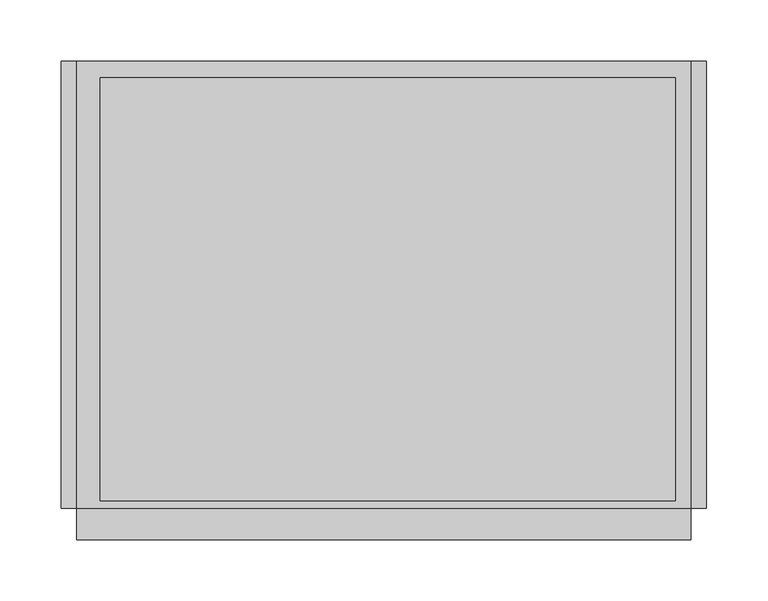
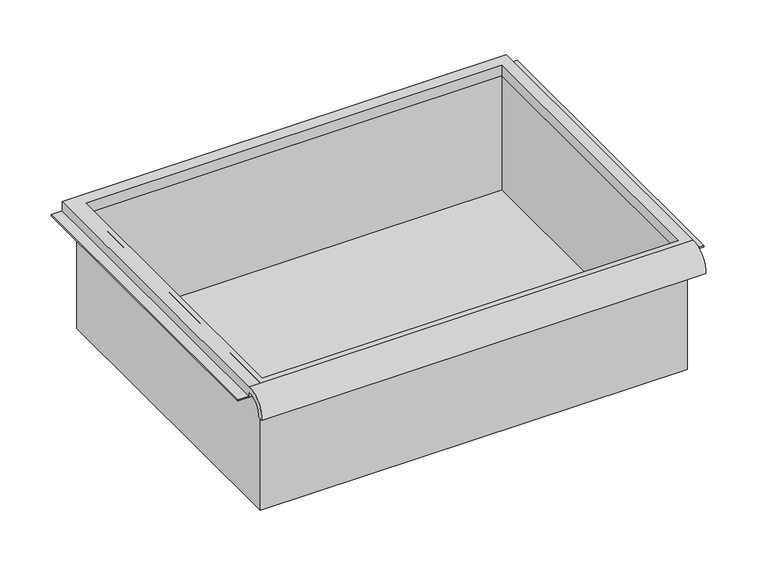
"""IFC4 building model written with IfcOpenShell, lengths in millimetres: furniture geometry."""

from ifc_helpers import new_model, si_unit, frame, origin, place, context, project, spatial, polyline, circle_curve, faceted_brep, source, transform, mapped, element, save
from ifc_brep_helpers import plane_surface, cylinder_surface, revolved_surface, advanced_brep


def furniture_b3912cd8(model_context):
    return source(origin(), model_context, "Body", "SolidModel", [
        advanced_brep(
        [(263.7474999, -195.297482, 662.7849518), (263.7474999, -188.9125, 662.7849518), (263.7474999, -169.8625, 681.046425), (263.7474999, -169.8625, 674.6964246), (263.7474999, 195.2625, 674.6964246), (263.7474999, 195.2625, 687.396425), (263.7474999, -169.8625, 687.396425), (-237.9025001, -195.297482, 662.7849518), (-237.9025001, -169.8625, 687.396425), (-237.9025001, 195.2625, 687.396425), (-237.9025001, 195.2625, 674.6964246), (-237.9025001, -169.8625, 674.6964246), (-237.9025001, -169.8625, 681.046425), (-237.9025001, -188.9125, 662.7849518), (251.0474878, 181.9275, 674.6964246), (-218.8095642, 181.9275, 674.6964246), (-218.8095642, -163.5125, 674.6964246), (251.0474878, -163.5125, 674.6964246), (-218.8095642, 181.9275, 687.396425), (251.0474878, 181.9275, 687.396425), (251.0474878, -163.5125, 687.396425), (-218.8095642, -163.5125, 687.396425)],
        [
            (0, 1),
            (1, 2, circle_curve(frame((263.7474999, -172.3404634, 664.5643622), z_axis=(-1.0, 0.0, 0.0), x_axis=(0.0, 1.0, 0.0)), 16.6672942)),
            (2, 3),
            (3, 4),
            (4, 5),
            (5, 6),
            (6, 0, circle_curve(frame((263.7474999, -172.4601678, 664.6322522), z_axis=(1.0, 0.0, 0.0), x_axis=(0.0, 1.0, 0.0)), 22.9119061)),
            (7, 8, circle_curve(frame((-237.9025001, -172.4601678, 664.6322522), z_axis=(-1.0, 0.0, 0.0), x_axis=(0.0, 1.0, 0.0)), 22.9119061)),
            (8, 9),
            (9, 10),
            (10, 11),
            (11, 12),
            (12, 13, circle_curve(frame((-237.9025001, -172.3404634, 664.5643622), z_axis=(1.0, 0.0, 0.0), x_axis=(0.0, 1.0, 0.0)), 16.6672942)),
            (13, 7),
            (0, 7),
            (13, 1),
            (12, 2),
            (11, 3),
            (10, 4),
            (14, 15),
            (15, 16),
            (16, 17),
            (17, 14),
            (9, 5),
            (8, 6),
            (18, 19),
            (19, 20),
            (20, 21),
            (21, 18),
            (14, 19),
            (18, 15),
            (21, 16),
            (20, 17),
        ],
        [
            plane_surface(frame((263.7474999, -195.297482, 662.7849518), z_axis=(1.0, 0.0, 0.0), x_axis=(0.0, 1.0, 0.0))),
            plane_surface(frame((-237.9025001, -195.297482, 662.7849518), z_axis=(-1.0, 0.0, 0.0), x_axis=(0.0, -1.0, 0.0))),
            plane_surface(frame((263.7474999, -195.297482, 662.7849518), z_axis=(0.0, 0.0, -1.0), x_axis=(-1.0, 0.0, 0.0))),
            revolved_surface(polyline([(-237.9025001, -155.67316920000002, 664.5643622), (263.7474999, -155.67316920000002, 664.5643622)]), (-237.9025001, -172.3404634, 664.5643622), (-1.0, 0.0, 0.0)),
            plane_surface(frame((263.7474999, -169.8625, 681.046425), z_axis=(0.0, -1.0, 0.0), x_axis=(-1.0, 0.0, 0.0))),
            plane_surface(frame((263.7474999, -169.8625, 674.6964246), z_axis=(0.0, 0.0, -1.0), x_axis=(-1.0, 0.0, 0.0))),
            plane_surface(frame((263.7474999, 195.2625, 674.6964246), z_axis=(0.0, 1.0, 0.0), x_axis=(-1.0, 0.0, 0.0))),
            plane_surface(frame((263.7474999, 195.2625, 687.396425), z_axis=(0.0, 0.0, 1.0), x_axis=(-1.0, 0.0, 0.0))),
            cylinder_surface(frame((-237.9025001, -172.4601678, 664.6322522), z_axis=(1.0, 0.0, 0.0), x_axis=(0.0, 1.0, 0.0)), 22.9119061),
            plane_surface(frame((251.0474878, 181.9275, 687.396425), z_axis=(0.0, -1.0, 0.0), x_axis=(0.0, 0.0, -1.0))),
            plane_surface(frame((-218.8095642, 181.9275, 687.396425), z_axis=(1.0, 0.0, 0.0), x_axis=(0.0, 0.0, -1.0))),
            plane_surface(frame((-218.8095642, -163.5125, 687.396425), z_axis=(0.0, 1.0, 0.0), x_axis=(0.0, 0.0, -1.0))),
            plane_surface(frame((251.0474878, -163.5125, 687.396425), z_axis=(-1.0, 0.0, 0.0), x_axis=(0.0, 0.0, -1.0))),
        ],
        [
            (0, [[1, 2, 3, 4, 5, 6, 7]]),
            (1, [[8, 9, 10, 11, 12, 13, 14]]),
            (2, [[-1, 15, -14, 16]]),
            (3, [[-2, -16, -13, 17]]),
            (4, [[-3, -17, -12, 18]]),
            (5, [[-4, -18, -11, 19], [20, 21, 22, 23]]),
            (6, [[-5, -19, -10, 24]]),
            (7, [[-6, -24, -9, 25], [26, 27, 28, 29]]),
            (8, [[-7, -25, -8, -15]]),
            (9, [[30, -26, 31, -20]]),
            (10, [[-31, -29, 32, -21]]),
            (11, [[-32, -28, 33, -22]]),
            (12, [[-30, -23, -33, -27]]),
        ],
    ),
        faceted_brep([(-225.2025001, -169.8625, 534.996425), (257.3974878, -169.8625, 534.996425), (257.3974878, -169.8625, 687.396425), (-225.2025001, -169.8625, 687.396425), (-225.2025001, 188.9125, 534.996425), (-225.2025001, 188.9125, 687.396425), (257.3974878, 188.9125, 687.396425), (257.3974878, 188.9125, 534.996425), (-218.8095642, 181.9275, 687.396425), (251.0474878, 181.9275, 687.396425), (251.0474878, -163.5125, 687.396425), (-218.8095642, -163.5125, 687.396425), (251.0474878, 181.9275, 538.171425), (-218.8095642, 181.9275, 538.171425), (-218.8095642, -163.5125, 538.171425), (251.0474878, -163.5125, 538.171425)], [[[0, 1, 2, 3]], [[4, 5, 6, 7]], [[1, 0, 4, 7]], [[2, 1, 7, 6]], [[3, 2, 6, 5], [8, 9, 10, 11]], [[0, 3, 5, 4]], [[12, 13, 14, 15]], [[13, 12, 9, 8]], [[14, 13, 8, 11]], [[15, 14, 11, 10]], [[12, 15, 10, 9]]]),
        faceted_brep([(-250.6025001, 195.2625, 674.6964246), (-250.6025001, 195.2625, 676.2839246), (-231.5525001, 195.2625, 676.2839246), (-231.5525001, 195.2625, 674.6964246), (-250.6025001, -169.8625, 674.6964246), (-231.5525001, -169.8625, 674.6964246), (-231.5525001, -169.8625, 676.2839246), (-250.6025001, -169.8625, 676.2839246)], [[[0, 1, 2, 3]], [[4, 5, 6, 7]], [[1, 0, 4, 7]], [[2, 1, 7, 6]], [[3, 2, 6, 5]], [[0, 3, 5, 4]]]),
        faceted_brep([(276.4474999, 195.2625, 674.6964246), (263.7474999, 195.2625, 674.6964246), (263.7474999, 195.2625, 676.2839246), (276.4474999, 195.2625, 676.2839246), (276.4474999, -169.8625, 674.6964246), (276.4474999, -169.8625, 676.2839246), (263.7474999, -169.8625, 676.2839246), (263.7474999, -169.8625, 674.6964246)], [[[0, 1, 2, 3]], [[4, 5, 6, 7]], [[1, 0, 4, 7]], [[2, 1, 7, 6]], [[3, 2, 6, 5]], [[0, 3, 5, 4]]]),
    ])


if __name__ == "__main__":
    model = new_model("IFC4")
    model_context = context("Model", 3, world=origin())
    ifc_project = project(units=[si_unit("LENGTHUNIT", "METRE", prefix="MILLI")], contexts=[model_context])
    site = spatial("IfcSite", under=ifc_project)
    building = spatial("IfcBuilding", under=site)
    placement = place(None, origin())
    furniture_shape = furniture_b3912cd8(model_context)
    element("IfcFurniture", 1, ObjectType="HermanMiller_Carts_CT501_Drawer : 6\"H x 15\"D x 20\"W", at=placement, inside=building, context=model_context, shape_type="MappedRepresentation", body=[
        mapped(furniture_shape, transform((0.0, 0.0, 0.0), x_axis=(1.0, 0.0, 0.0), y_axis=(0.0, 1.0, 0.0), z_axis=(0.0, 0.0, 1.0))),
    ])
    save(model, "model.ifc")
